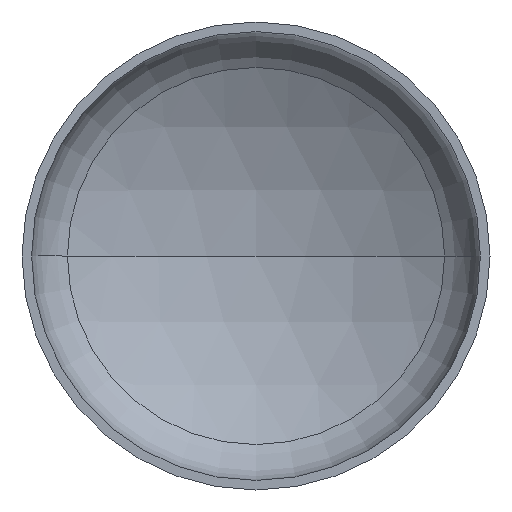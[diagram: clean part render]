
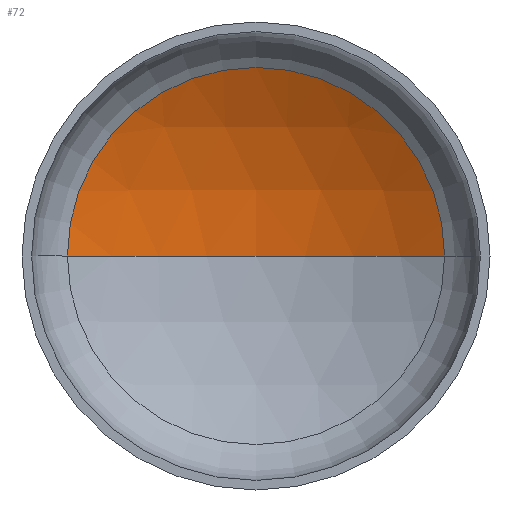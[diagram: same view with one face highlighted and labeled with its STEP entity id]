
A CAD part, front view. The second image highlights one B-rep face of the part: STEP entity #72.
In plain terms, the highlighted spherical face has radius 3600 mm.
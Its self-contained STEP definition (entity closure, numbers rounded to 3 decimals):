
#16 = CARTESIAN_POINT ( 'NONE',  ( 1813.012, 700.43, 0. ) ) ;
#20 = AXIS2_PLACEMENT_3D ( 'NONE', #305, #258, #399 ) ;
#21 = AXIS2_PLACEMENT_3D ( 'NONE', #359, #30, #27 ) ;
#22 = EDGE_LOOP ( 'NONE', ( #300, #125, #121 ) ) ;
#23 = AXIS2_PLACEMENT_3D ( 'NONE', #333, #190, #364 ) ;
#27 = DIRECTION ( 'NONE',  ( -1., 0., 0. ) ) ;
#28 = AXIS2_PLACEMENT_3D ( 'NONE', #339, #328, #294 ) ;
#30 = DIRECTION ( 'NONE',  ( 0., 0., -1. ) ) ;
#46 = VERTEX_POINT ( 'NONE', #255 ) ;
#60 = VERTEX_POINT ( 'NONE', #292 ) ;
#72 = ADVANCED_FACE ( 'NONE', ( #363 ), #231, .F. ) ;
#77 = EDGE_CURVE ( 'NONE', #99, #46, #407, .T. ) ;
#78 = EDGE_CURVE ( 'NONE', #60, #99, #356, .T. ) ;
#79 = EDGE_CURVE ( 'NONE', #60, #46, #226, .T. ) ;
#99 = VERTEX_POINT ( 'NONE', #16 ) ;
#121 = ORIENTED_EDGE ( 'NONE', *, *, #77, .T. ) ;
#125 = ORIENTED_EDGE ( 'NONE', *, *, #78, .T. ) ;
#190 = DIRECTION ( 'NONE',  ( 0., -1., 0. ) ) ;
#226 = CIRCLE ( 'NONE', #20, 3600. ) ;
#231 = SPHERICAL_SURFACE ( 'NONE', #28, 3600. ) ;
#255 = CARTESIAN_POINT ( 'NONE',  ( -1813.012, 700.43, 0. ) ) ;
#258 = DIRECTION ( 'NONE',  ( 0., 0., 1. ) ) ;
#292 = CARTESIAN_POINT ( 'NONE',  ( 0., 1190.288, 0. ) ) ;
#294 = DIRECTION ( 'NONE',  ( -1., 0., 0. ) ) ;
#300 = ORIENTED_EDGE ( 'NONE', *, *, #79, .F. ) ;
#305 = CARTESIAN_POINT ( 'NONE',  ( 0., -2409.712, 0. ) ) ;
#328 = DIRECTION ( 'NONE',  ( 0., 0., -1. ) ) ;
#333 = CARTESIAN_POINT ( 'NONE',  ( 0., 700.43, 0. ) ) ;
#339 = CARTESIAN_POINT ( 'NONE',  ( 0., -2409.712, 0. ) ) ;
#356 = CIRCLE ( 'NONE', #21, 3600. ) ;
#359 = CARTESIAN_POINT ( 'NONE',  ( 0., -2409.712, 0. ) ) ;
#363 = FACE_OUTER_BOUND ( 'NONE', #22, .T. ) ;
#364 = DIRECTION ( 'NONE',  ( 1., 0., 0. ) ) ;
#399 = DIRECTION ( 'NONE',  ( 1., 0., 0. ) ) ;
#407 = CIRCLE ( 'NONE', #23, 1813.012 ) ;
